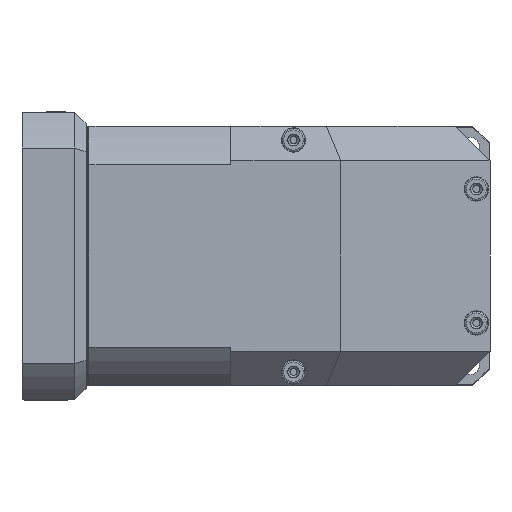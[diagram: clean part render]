
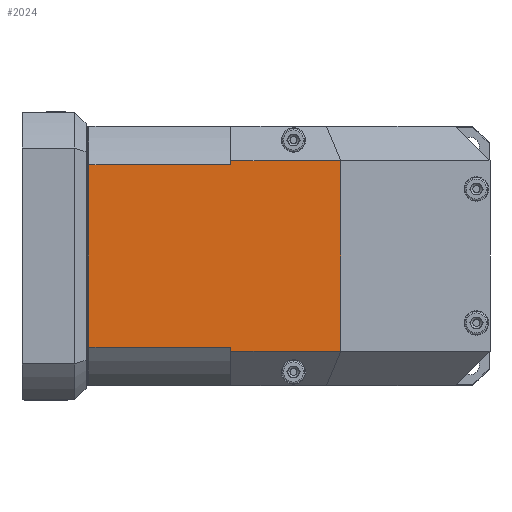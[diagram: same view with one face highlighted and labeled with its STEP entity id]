
A CAD part, front view. The second image highlights one B-rep face of the part: STEP entity #2024.
In plain terms, the highlighted planar face has unit normal (0, -1, 0).
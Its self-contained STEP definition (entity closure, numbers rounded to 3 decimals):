
#1953=CARTESIAN_POINT('',(-150.251,-141.407,-90.0));
#1954=DIRECTION('',(0.0,-1.0,0.0));
#1955=DIRECTION('',(0.0,0.0,-1.0));
#1956=AXIS2_PLACEMENT_3D('',#1953,#1954,#1955);
#1957=PLANE('',#1956);
#1958=CARTESIAN_POINT('',(-50.751,-141.407,63.246));
#1959=VERTEX_POINT('',#1958);
#1960=CARTESIAN_POINT('',(-149.251,-141.407,63.246));
#1961=VERTEX_POINT('',#1960);
#1962=CARTESIAN_POINT('',(-50.751,-141.407,63.246));
#1963=DIRECTION('',(-1.0,0.0,0.0));
#1964=VECTOR('',#1963,98.5);
#1965=LINE('',#1962,#1964);
#1966=EDGE_CURVE('',#1959,#1961,#1965,.T.);
#1967=ORIENTED_EDGE('',*,*,#1966,.T.);
#1968=CARTESIAN_POINT('',(-149.251,-141.407,-63.246));
#1969=VERTEX_POINT('',#1968);
#1970=CARTESIAN_POINT('',(-149.251,-141.407,63.246));
#1971=DIRECTION('',(0.0,0.0,-1.0));
#1972=VECTOR('',#1971,126.491);
#1973=LINE('',#1970,#1972);
#1974=EDGE_CURVE('',#1961,#1969,#1973,.T.);
#1975=ORIENTED_EDGE('',*,*,#1974,.T.);
#1976=CARTESIAN_POINT('',(-50.751,-141.407,-63.246));
#1977=VERTEX_POINT('',#1976);
#1978=CARTESIAN_POINT('',(-149.251,-141.407,-63.246));
#1979=DIRECTION('',(1.0,0.0,0.0));
#1980=VECTOR('',#1979,98.5);
#1981=LINE('',#1978,#1980);
#1982=EDGE_CURVE('',#1969,#1977,#1981,.T.);
#1983=ORIENTED_EDGE('',*,*,#1982,.T.);
#1984=CARTESIAN_POINT('',(-50.751,-141.407,-66.));
#1985=VERTEX_POINT('',#1984);
#1986=CARTESIAN_POINT('',(-50.751,-141.407,-66.));
#1987=DIRECTION('',(0.0,0.0,1.0));
#1988=VECTOR('',#1987,2.754);
#1989=LINE('',#1986,#1988);
#1990=EDGE_CURVE('',#1985,#1977,#1989,.T.);
#1991=ORIENTED_EDGE('',*,*,#1990,.F.);
#1992=CARTESIAN_POINT('',(25.616,-141.407,-66.));
#1993=VERTEX_POINT('',#1992);
#1994=CARTESIAN_POINT('',(-50.751,-141.407,-66.));
#1995=DIRECTION('',(1.0,0.0,0.0));
#1996=VECTOR('',#1995,76.368);
#1997=LINE('',#1994,#1996);
#1998=EDGE_CURVE('',#1985,#1993,#1997,.T.);
#1999=ORIENTED_EDGE('',*,*,#1998,.T.);
#2000=CARTESIAN_POINT('',(25.616,-141.407,66.));
#2001=VERTEX_POINT('',#2000);
#2002=CARTESIAN_POINT('',(25.616,-141.407,66.));
#2003=DIRECTION('',(0.0,0.0,-1.0));
#2004=VECTOR('',#2003,132.0);
#2005=LINE('',#2002,#2004);
#2006=EDGE_CURVE('',#2001,#1993,#2005,.T.);
#2007=ORIENTED_EDGE('',*,*,#2006,.F.);
#2008=CARTESIAN_POINT('',(-50.751,-141.407,66.));
#2009=VERTEX_POINT('',#2008);
#2010=CARTESIAN_POINT('',(25.616,-141.407,66.));
#2011=DIRECTION('',(-1.0,0.0,0.0));
#2012=VECTOR('',#2011,76.368);
#2013=LINE('',#2010,#2012);
#2014=EDGE_CURVE('',#2001,#2009,#2013,.T.);
#2015=ORIENTED_EDGE('',*,*,#2014,.T.);
#2016=CARTESIAN_POINT('',(-50.751,-141.407,63.246));
#2017=DIRECTION('',(0.0,0.0,1.0));
#2018=VECTOR('',#2017,2.754);
#2019=LINE('',#2016,#2018);
#2020=EDGE_CURVE('',#1959,#2009,#2019,.T.);
#2021=ORIENTED_EDGE('',*,*,#2020,.F.);
#2022=EDGE_LOOP('',(#1967,#1975,#1983,#1991,#1999,#2007,#2015,#2021));
#2023=FACE_OUTER_BOUND('',#2022,.T.);
#2024=ADVANCED_FACE('',(#2023),#1957,.T.);
